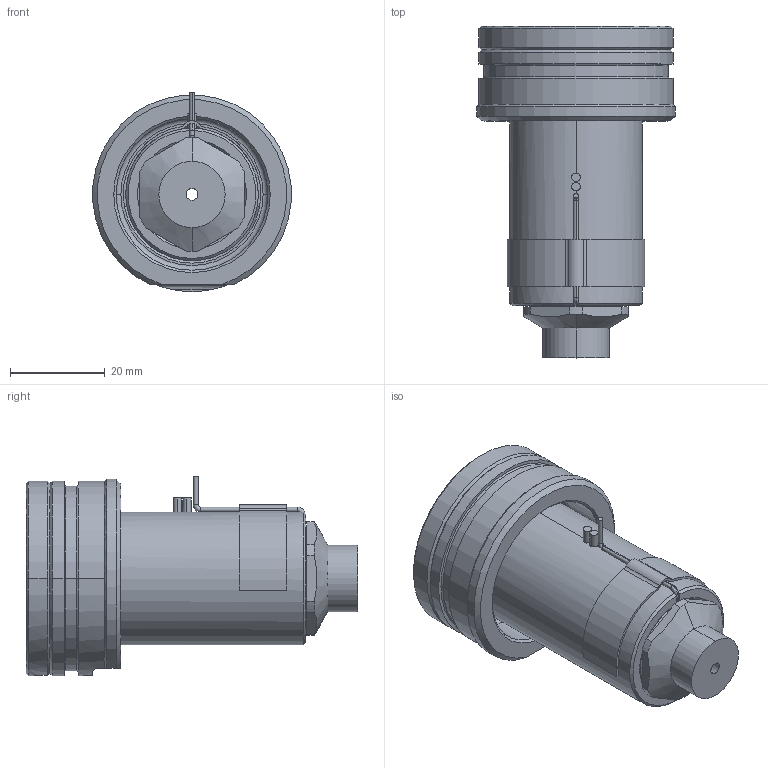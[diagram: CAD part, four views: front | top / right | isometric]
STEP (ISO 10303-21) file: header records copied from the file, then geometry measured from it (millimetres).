
FILE_DESCRIPTION((''),'2;1');
FILE_NAME('EO10_VG-FB_WR_050_SW','2024-02-19T13:34:27',('sundharh'),(''),'CREO PARAMETRIC BY PTC INC, 2023154','CREO PARAMETRIC BY PTC INC, 2023154','');
FILE_SCHEMA(('CONFIG_CONTROL_DESIGN'));
Length unit declared in the file: millimetre
Products named in the file (1): EO10_VG-FB_WR_050_SW
Bounding box: 41.85 x 70 x 42.02 mm (x, y, z)
Volume: 45441.9 mm3; surface area: 15017.3 mm2
Topology: 1 solids, 1 shells, 193 faces, 480 edges, 293 vertices
Faces by surface type: cylinder 71, plane 47, cone 37, torus 23, bspline 13, sphere 2
Entity records: 6638 total; most frequent: CARTESIAN_POINT 1956, DIRECTION 1035, ORIENTED_EDGE 956, EDGE_CURVE 478, AXIS2_PLACEMENT_3D 433, VERTEX_POINT 293, CIRCLE 253, EDGE_LOOP 209
